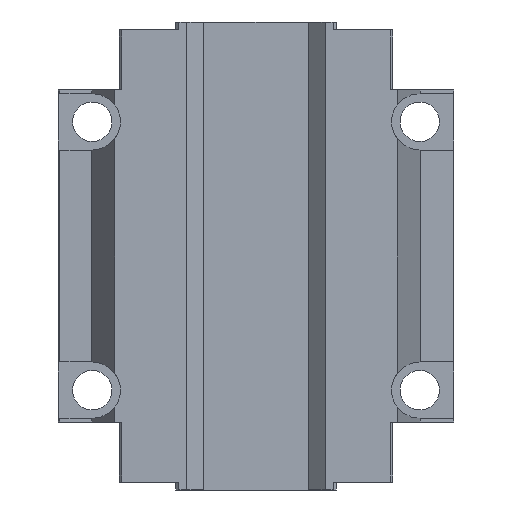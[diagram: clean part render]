
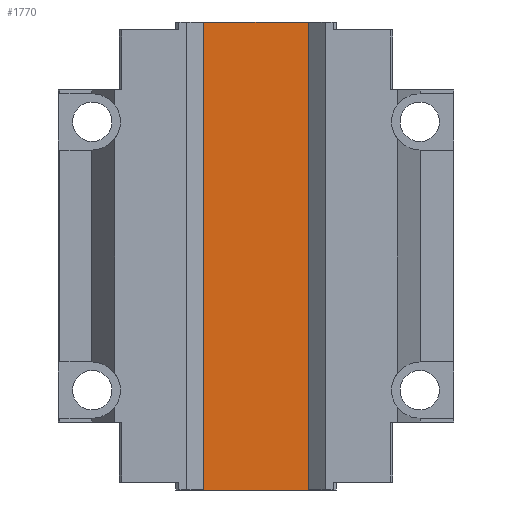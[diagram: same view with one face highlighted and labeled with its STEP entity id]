
A CAD part, front view. The second image highlights one B-rep face of the part: STEP entity #1770.
In plain terms, the highlighted planar face has unit normal (0, -1, 0).
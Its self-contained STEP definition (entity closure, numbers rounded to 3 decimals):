
#103 = LINE ( 'NONE', #4002, #4642 ) ;
#190 = DIRECTION ( 'NONE',  ( 0., 1., 0. ) ) ;
#216 = ORIENTED_EDGE ( 'NONE', *, *, #6085, .F. ) ;
#221 = CARTESIAN_POINT ( 'NONE',  ( -26.5, 44., 82.85 ) ) ;
#379 = EDGE_CURVE ( 'NONE', #741, #3128, #7949, .T. ) ;
#681 = CARTESIAN_POINT ( 'NONE',  ( -18.55, 44., -77.85 ) ) ;
#741 = VERTEX_POINT ( 'NONE', #1017 ) ;
#790 = CARTESIAN_POINT ( 'NONE',  ( 18.55, 44., -77.85 ) ) ;
#848 = DIRECTION ( 'NONE',  ( 1., 0., 0. ) ) ;
#933 = DIRECTION ( 'NONE',  ( -1., 0., 0. ) ) ;
#1017 = CARTESIAN_POINT ( 'NONE',  ( 18.55, 44., 82.85 ) ) ;
#1416 = DIRECTION ( 'NONE',  ( 0., 0., -1. ) ) ;
#1636 = VERTEX_POINT ( 'NONE', #5016 ) ;
#1770 = ADVANCED_FACE ( 'NONE', ( #2919 ), #3888, .F. ) ;
#2491 = ORIENTED_EDGE ( 'NONE', *, *, #379, .F. ) ;
#2585 = AXIS2_PLACEMENT_3D ( 'NONE', #6357, #190, #4503 ) ;
#2919 = FACE_OUTER_BOUND ( 'NONE', #7041, .T. ) ;
#3020 = VECTOR ( 'NONE', #1416, 1000. ) ;
#3128 = VERTEX_POINT ( 'NONE', #3691 ) ;
#3650 = CARTESIAN_POINT ( 'NONE',  ( -18.55, 44., 82.85 ) ) ;
#3691 = CARTESIAN_POINT ( 'NONE',  ( 18.55, 44., -82.85 ) ) ;
#3888 = PLANE ( 'NONE',  #2585 ) ;
#3973 = LINE ( 'NONE', #221, #5612 ) ;
#4002 = CARTESIAN_POINT ( 'NONE',  ( -26.5, 44., -82.85 ) ) ;
#4103 = ORIENTED_EDGE ( 'NONE', *, *, #5993, .F. ) ;
#4503 = DIRECTION ( 'NONE',  ( 0., 0., 1. ) ) ;
#4642 = VECTOR ( 'NONE', #933, 1000. ) ;
#4695 = ORIENTED_EDGE ( 'NONE', *, *, #6859, .F. ) ;
#4910 = VECTOR ( 'NONE', #5619, 1000. ) ;
#5016 = CARTESIAN_POINT ( 'NONE',  ( -18.55, 44., -82.85 ) ) ;
#5612 = VECTOR ( 'NONE', #848, 1000. ) ;
#5619 = DIRECTION ( 'NONE',  ( 0., 0., 1. ) ) ;
#5830 = VERTEX_POINT ( 'NONE', #3650 ) ;
#5993 = EDGE_CURVE ( 'NONE', #5830, #741, #3973, .T. ) ;
#6085 = EDGE_CURVE ( 'NONE', #3128, #1636, #103, .T. ) ;
#6357 = CARTESIAN_POINT ( 'NONE',  ( -26.5, 44., -77.85 ) ) ;
#6581 = LINE ( 'NONE', #681, #4910 ) ;
#6859 = EDGE_CURVE ( 'NONE', #1636, #5830, #6581, .T. ) ;
#7041 = EDGE_LOOP ( 'NONE', ( #4695, #216, #2491, #4103 ) ) ;
#7949 = LINE ( 'NONE', #790, #3020 ) ;
